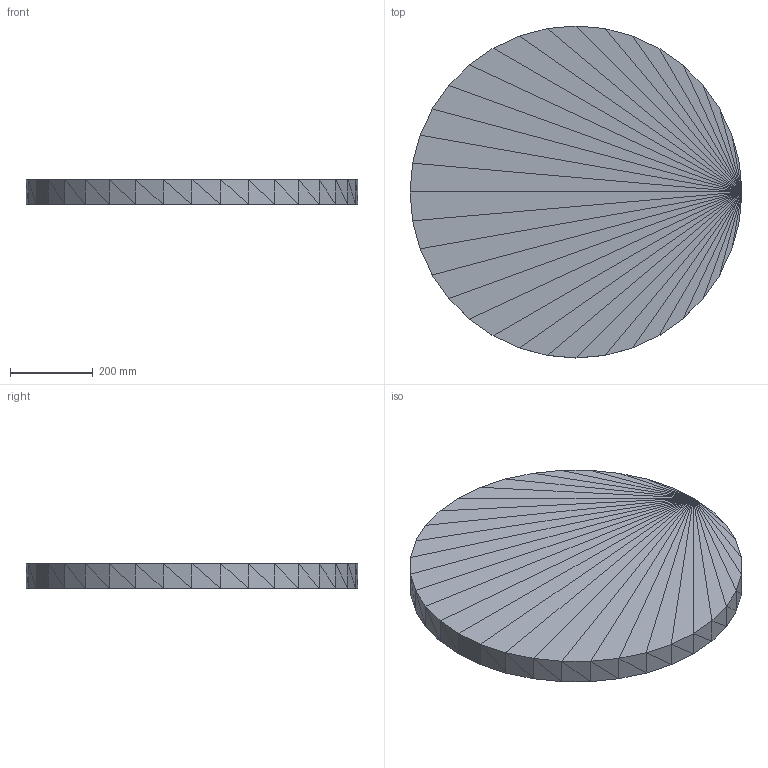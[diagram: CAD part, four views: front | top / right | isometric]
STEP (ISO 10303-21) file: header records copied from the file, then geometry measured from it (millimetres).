
FILE_DESCRIPTION(('ISINAC STEP AP214'),'2;1');
FILE_NAME('ISINAC_CIR.800_60mm_ADHESIVO','2026-05-03T10:49:20',('ISINAC'),('www.isinac.com'),'ISINAC BIM Generator 1.0','','');
FILE_SCHEMA(('AUTOMOTIVE_DESIGN'));
Length unit declared in the file: millimetre
Products named in the file (1): ISINAC_CIR.800_60mm_ADHESIVO
Bounding box: 800 x 800 x 60 mm (x, y, z)
Surface area: 1150818.6 mm2 (no closed solid volume)
Topology: 0 solids, 140 shells, 140 faces, 420 edges, 420 vertices
Faces by surface type: plane 140
Entity records: 1553 total; most frequent: CARTESIAN_POINT 560, DIRECTION 280, POLY_LOOP 140, FACE_OUTER_BOUND 140, AXIS2_PLACEMENT_3D 140, PLANE 140, FACE_SURFACE 140, CLOSED_SHELL 1
